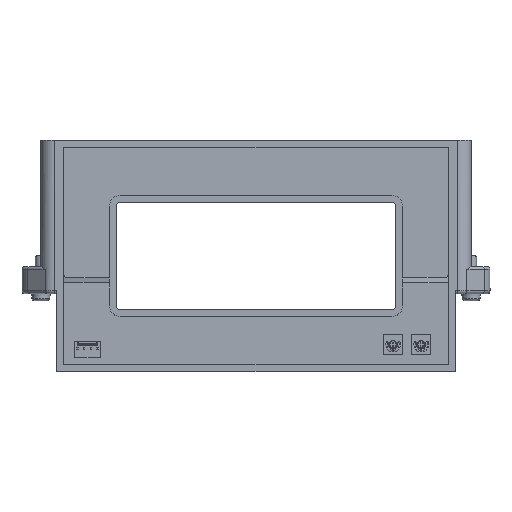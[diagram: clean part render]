
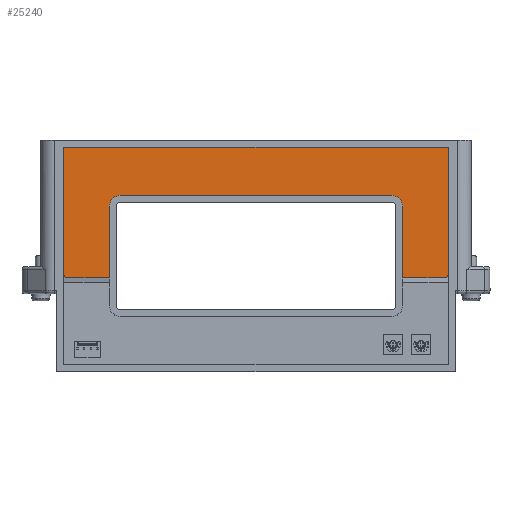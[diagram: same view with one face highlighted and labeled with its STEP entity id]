
A CAD part, top view. The second image highlights one B-rep face of the part: STEP entity #25240.
In plain terms, the highlighted planar face has unit normal (0, 0, 1).
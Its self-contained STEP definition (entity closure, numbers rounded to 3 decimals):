
#8800=CARTESIAN_POINT('',(54.5,27.5,24.89));
#8810=VERTEX_POINT('',#8800);
#8840=CARTESIAN_POINT('',(54.5,0.,24.89));
#8850=DIRECTION('',(0.,-1.,0.));
#8860=VECTOR('',#8850,1.);
#8870=LINE('',#8840,#8860);
#8880=CARTESIAN_POINT('',(54.5,0.8,24.89));
#8890=VERTEX_POINT('',#8880);
#8900=EDGE_CURVE('',#8810,#8890,#8870,.T.);
#9200=CARTESIAN_POINT('',(50.5,31.5,24.89));
#9210=VERTEX_POINT('',#9200);
#9240=CARTESIAN_POINT('',(50.5,27.5,24.89));
#9250=DIRECTION('',(0.,0.,1.));
#9260=DIRECTION('',(-1.,0.,0.));
#9270=AXIS2_PLACEMENT_3D('',#9240,#9250,#9260);
#9280=CIRCLE('',#9270,4.);
#9290=EDGE_CURVE('',#8810,#9210,#9280,.T.);
#9520=CARTESIAN_POINT('',(-50.5,31.5,24.89));
#9530=VERTEX_POINT('',#9520);
#9560=CARTESIAN_POINT('',(0.,31.5,24.89));
#9570=DIRECTION('',(1.,0.,-0.));
#9580=VECTOR('',#9570,1.);
#9590=LINE('',#9560,#9580);
#9600=EDGE_CURVE('',#9530,#9210,#9590,.T.);
#9700=CARTESIAN_POINT('',(-50.5,27.5,24.89));
#9710=DIRECTION('',(0.,0.,1.));
#9720=DIRECTION('',(-1.,0.,0.));
#9730=AXIS2_PLACEMENT_3D('',#9700,#9710,#9720);
#9740=CIRCLE('',#9730,4.);
#9750=CARTESIAN_POINT('',(-54.5,27.5,24.89));
#9760=VERTEX_POINT('',#9750);
#9770=EDGE_CURVE('',#9530,#9760,#9740,.T.);
#10070=CARTESIAN_POINT('',(-54.5,0.8,24.89));
#10080=VERTEX_POINT('',#10070);
#10250=CARTESIAN_POINT('',(-70.,0.8,24.89));
#10260=VERTEX_POINT('',#10250);
#10290=CARTESIAN_POINT('',(0.,0.8,24.89));
#10300=DIRECTION('',(-1.,0.,0.));
#10310=VECTOR('',#10300,1.);
#10320=LINE('',#10290,#10310);
#10330=EDGE_CURVE('',#10080,#10260,#10320,.T.);
#22510=CARTESIAN_POINT('',(0.,0.8,24.89));
#22520=DIRECTION('',(1.,0.,-0.));
#22530=VECTOR('',#22520,1.);
#22540=LINE('',#22510,#22530);
#22550=CARTESIAN_POINT('',(70.,0.8,24.89));
#22560=VERTEX_POINT('',#22550);
#22570=EDGE_CURVE('',#8890,#22560,#22540,.T.);
#22850=CARTESIAN_POINT('',(71.5,2.3,24.89));
#22860=VERTEX_POINT('',#22850);
#22990=CARTESIAN_POINT('',(70.,2.3,24.89));
#23000=DIRECTION('',(0.,0.,1.));
#23010=DIRECTION('',(-1.,0.,0.));
#23020=AXIS2_PLACEMENT_3D('',#22990,#23000,#23010);
#23030=CIRCLE('',#23020,1.5);
#23040=EDGE_CURVE('',#22560,#22860,#23030,.T.);
#23200=CARTESIAN_POINT('',(-71.5,2.3,24.89));
#23210=VERTEX_POINT('',#23200);
#23360=CARTESIAN_POINT('',(-71.5,49.5,24.89));
#23370=VERTEX_POINT('',#23360);
#23400=CARTESIAN_POINT('',(-71.5,0.,24.89));
#23410=DIRECTION('',(0.,-1.,0.));
#23420=VECTOR('',#23410,1.);
#23430=LINE('',#23400,#23420);
#23440=EDGE_CURVE('',#23370,#23210,#23430,.T.);
#23620=CARTESIAN_POINT('',(-54.5,0.,24.89));
#23630=DIRECTION('',(0.,1.,-0.));
#23640=VECTOR('',#23630,1.);
#23650=LINE('',#23620,#23640);
#23660=EDGE_CURVE('',#10080,#9760,#23650,.T.);
#23770=CARTESIAN_POINT('',(-70.,2.3,24.89));
#23780=DIRECTION('',(0.,0.,1.));
#23790=DIRECTION('',(-1.,0.,0.));
#23800=AXIS2_PLACEMENT_3D('',#23770,#23780,#23790);
#23810=CIRCLE('',#23800,1.5);
#23820=EDGE_CURVE('',#23210,#10260,#23810,.T.);
#24930=CARTESIAN_POINT('',(71.5,49.5,24.89));
#24940=DIRECTION('',(0.,0.,1.));
#24950=DIRECTION('',(-1.,0.,0.));
#24960=AXIS2_PLACEMENT_3D('',#24930,#24940,#24950);
#24970=PLANE('',#24960);
#24980=ORIENTED_EDGE('',*,*,#9600,.T.);
#24990=ORIENTED_EDGE('',*,*,#9770,.F.);
#25000=ORIENTED_EDGE('',*,*,#23660,.T.);
#25010=ORIENTED_EDGE('',*,*,#10330,.F.);
#25020=ORIENTED_EDGE('',*,*,#23820,.T.);
#25030=ORIENTED_EDGE('',*,*,#23440,.T.);
#25040=CARTESIAN_POINT('',(0.,49.5,24.89));
#25050=DIRECTION('',(-1.,0.,0.));
#25060=VECTOR('',#25050,1.);
#25070=LINE('',#25040,#25060);
#25080=CARTESIAN_POINT('',(71.5,49.5,24.89));
#25090=VERTEX_POINT('',#25080);
#25100=EDGE_CURVE('',#25090,#23370,#25070,.T.);
#25110=ORIENTED_EDGE('',*,*,#25100,.T.);
#25120=CARTESIAN_POINT('',(71.5,0.,24.89));
#25130=DIRECTION('',(0.,1.,-0.));
#25140=VECTOR('',#25130,1.);
#25150=LINE('',#25120,#25140);
#25160=EDGE_CURVE('',#22860,#25090,#25150,.T.);
#25170=ORIENTED_EDGE('',*,*,#25160,.T.);
#25180=ORIENTED_EDGE('',*,*,#23040,.T.);
#25190=ORIENTED_EDGE('',*,*,#22570,.T.);
#25200=ORIENTED_EDGE('',*,*,#8900,.T.);
#25210=ORIENTED_EDGE('',*,*,#9290,.F.);
#25220=EDGE_LOOP('',(#25210,#25200,#25190,#25180,#25170,#25110,#25030,
#25020,#25010,#25000,#24990,#24980));
#25230=FACE_OUTER_BOUND('',#25220,.T.);
#25240=ADVANCED_FACE('',(#25230),#24970,.T.);
